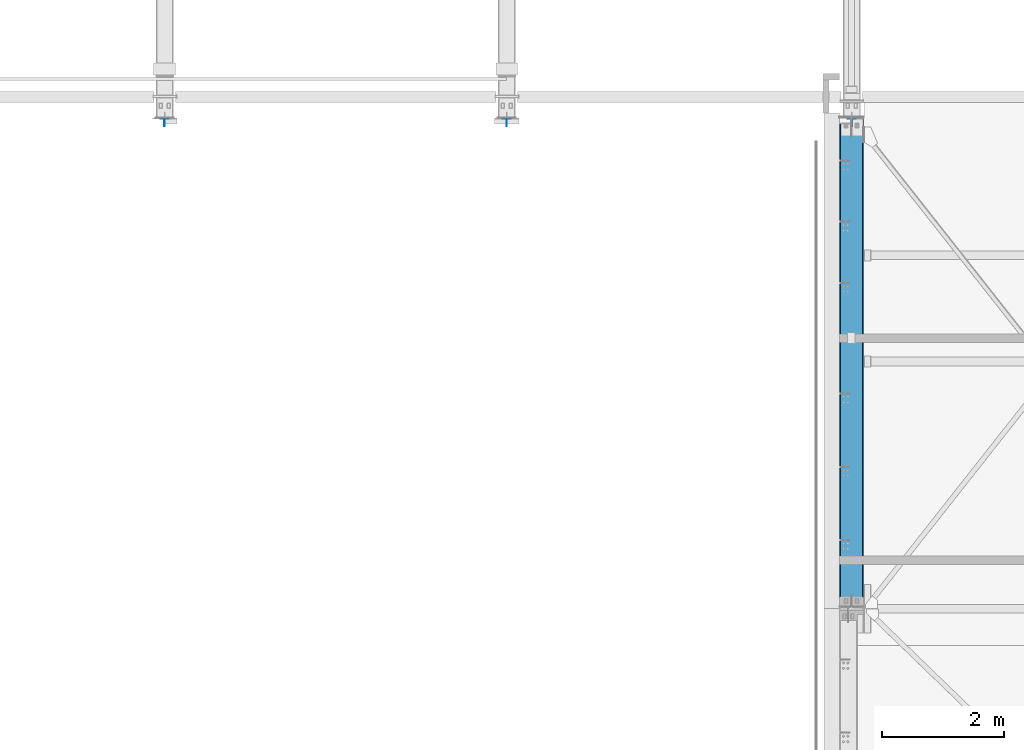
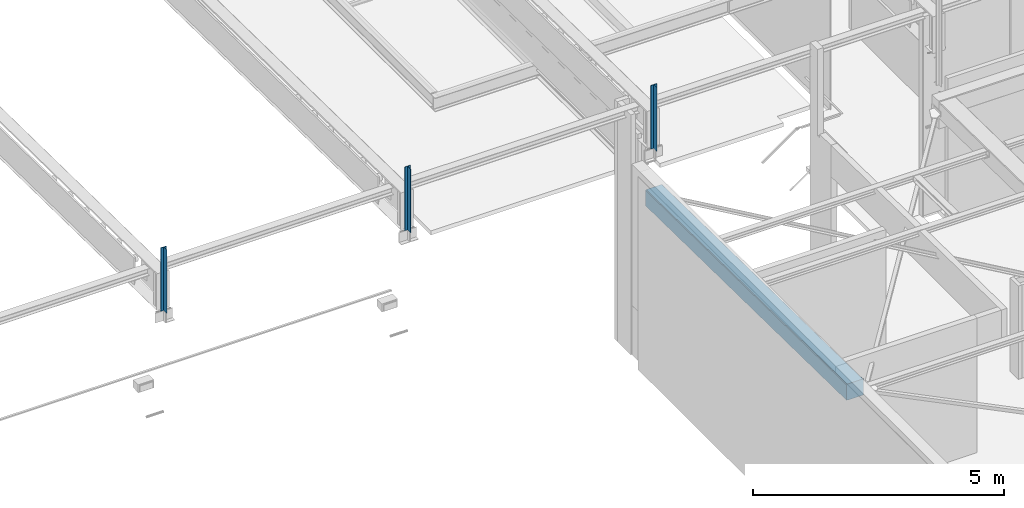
# One storey, part 125 of 186: 4 beams.
"""IFC4X3_ADD2 building model written with IfcOpenShell, lengths in millimetres."""

from ifc_helpers import new_model, si_unit, direction, frame, origin_with_axes, place, context, subcontext, project, spatial, polygons, element, save


model = new_model("IFC4X3_ADD2")

# Units and contexts
model_context = context("Model", 3, precision=1e-05, world=origin_with_axes(), true_north=direction((0.0, 1.0)))
body_context = subcontext(model_context, "Body", "Model", "MODEL_VIEW")
ifc_project = project(units=[si_unit("LENGTHUNIT", "METRE", prefix="MILLI"), si_unit("AREAUNIT", "SQUARE_METRE"), si_unit("VOLUMEUNIT", "CUBIC_METRE"), si_unit("PLANEANGLEUNIT", "RADIAN"), si_unit("TIMEUNIT", "SECOND"), si_unit("MASSUNIT", "GRAM")], contexts=[model_context])

# Site, building, storey
site_placement = place(None, origin_with_axes())
site = spatial("IfcSite", under=ifc_project, at=site_placement, Name="Site", CompositionType="ELEMENT")
building_placement = place(site_placement, origin_with_axes())
building = spatial("IfcBuilding", under=site, at=building_placement, Name="IFC Building Story")
storey_placement = place(building_placement, frame((0.0, 0.0, 4370.0), z_axis=(0.0, 0.0, 1.0), x_axis=(1.0, 0.0, 0.0)))
storey = spatial("IfcBuildingStorey", under=building, at=storey_placement, Name="ETAGE 10 (1)", Elevation=4370.0)

# Beams
beam_1_placement = place(storey_placement, frame((0.0, 0.0, -4370.0), z_axis=(0.0, 0.0, 1.0), x_axis=(1.0, 0.0, 0.0)))
element("IfcBeam", 1, at=beam_1_placement, inside=storey, Name="PS6", ObjectType="HALF_IPE270_135", context=body_context, shape_type="Tessellation", body=[
    polygons([(22158.9914617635, -134.999992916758, 9995.00041961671), (22158.9914617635, -134.999992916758, 8450.00041961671), (22158.9914617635, -10.199992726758, 8450.00041961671), (22158.9914617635, -10.199992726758, 9995.00041961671), (22223.19146181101, -10.199992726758, 8450.00041961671), (22223.19146181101, -10.199992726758, 9995.00041961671), (22223.19146181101, 7.083241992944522e-06, 8450.00041961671), (22223.19146181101, 7.083241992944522e-06, 9995.00041961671), (22088.191461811, 7.083241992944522e-06, 8450.00041961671), (22088.191461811, 7.083241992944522e-06, 9995.00041961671), (22088.191461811, -10.199992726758, 8450.00041961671), (22088.191461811, -10.199992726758, 9995.00041961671), (22152.3914618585, -10.199992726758, 8450.00041961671), (22152.3914618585, -10.199992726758, 9995.00041961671), (22152.3914618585, -134.999992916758, 8450.00041961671), (22152.3914618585, -134.999992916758, 9995.00041961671)], [[[1, 2, 3, 4]], [[4, 3, 5, 6]], [[6, 5, 7, 8]], [[8, 7, 9, 10]], [[10, 9, 11, 12]], [[12, 11, 13, 14]], [[14, 13, 15, 16]], [[16, 15, 2, 1]], [[4, 6, 8]], [[4, 8, 14]], [[14, 16, 1]], [[14, 1, 4]], [[8, 10, 14]], [[10, 12, 14]], [[13, 11, 9]], [[13, 9, 3]], [[3, 2, 15]], [[3, 15, 13]], [[9, 7, 3]], [[7, 5, 3]]]),
])
beam_2_placement = place(storey_placement, frame((0.0, 0.0, -4370.0), z_axis=(0.0, 0.0, 1.0), x_axis=(1.0, 0.0, 0.0)))
element("IfcBeam", 2, at=beam_2_placement, inside=storey, Name="PS6", ObjectType="HALF_IPE270_135", context=body_context, shape_type="Tessellation", body=[
    polygons([(27758.9908895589, -134.999992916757, 9995.00041961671), (27758.9908895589, -134.999992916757, 8450.00041961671), (27758.9908895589, -10.19999272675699, 8450.00041961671), (27758.9908895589, -10.19999272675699, 9995.00041961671), (27823.19088960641, -10.19999272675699, 8450.00041961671), (27823.19088960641, -10.19999272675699, 9995.00041961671), (27823.19088960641, 7.083243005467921e-06, 8450.00041961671), (27823.19088960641, 7.083243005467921e-06, 9995.00041961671), (27688.1908896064, 7.083243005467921e-06, 8450.00041961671), (27688.1908896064, 7.083243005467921e-06, 9995.00041961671), (27688.1908896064, -10.19999272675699, 8450.00041961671), (27688.1908896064, -10.19999272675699, 9995.00041961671), (27752.3908896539, -10.19999272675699, 8450.00041961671), (27752.3908896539, -10.19999272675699, 9995.00041961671), (27752.3908896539, -134.999992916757, 8450.00041961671), (27752.3908896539, -134.999992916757, 9995.00041961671)], [[[1, 2, 3, 4]], [[4, 3, 5, 6]], [[6, 5, 7, 8]], [[8, 7, 9, 10]], [[10, 9, 11, 12]], [[12, 11, 13, 14]], [[14, 13, 15, 16]], [[16, 15, 2, 1]], [[4, 6, 8]], [[4, 8, 14]], [[14, 16, 1]], [[14, 1, 4]], [[8, 10, 14]], [[10, 12, 14]], [[13, 11, 9]], [[13, 9, 3]], [[3, 2, 15]], [[3, 15, 13]], [[9, 7, 3]], [[7, 5, 3]]]),
])
beam_3_placement = place(storey_placement, frame((0.0, 0.0, -4370.0), z_axis=(0.0, 0.0, 1.0), x_axis=(1.0, 0.0, 0.0)))
element("IfcBeam", 3, at=beam_3_placement, inside=storey, Name="PS6", ObjectType="HALF_IPE270_135", context=body_context, shape_type="Tessellation", body=[
    polygons([(33409.48850808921, -134.999992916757, 9995.00041961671), (33409.48850808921, -134.999992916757, 8450.00041961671), (33409.48850808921, -10.19999272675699, 8450.00041961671), (33409.48850808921, -10.19999272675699, 9995.00041961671), (33473.68850813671, -10.19999272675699, 8450.00041961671), (33473.68850813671, -10.19999272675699, 9995.00041961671), (33473.68850813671, 7.083243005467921e-06, 8450.00041961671), (33473.68850813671, 7.083243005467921e-06, 9995.00041961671), (33338.6885081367, 7.083243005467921e-06, 8450.00041961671), (33338.6885081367, 7.083243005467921e-06, 9995.00041961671), (33338.6885081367, -10.19999272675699, 8450.00041961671), (33338.6885081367, -10.19999272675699, 9995.00041961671), (33402.8885081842, -10.19999272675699, 8450.00041961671), (33402.8885081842, -10.19999272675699, 9995.00041961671), (33402.88850818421, -134.999992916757, 8450.00041961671), (33402.88850818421, -134.999992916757, 9995.00041961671)], [[[1, 2, 3, 4]], [[4, 3, 5, 6]], [[6, 5, 7, 8]], [[8, 7, 9, 10]], [[10, 9, 11, 12]], [[12, 11, 13, 14]], [[14, 13, 15, 16]], [[16, 15, 2, 1]], [[4, 6, 8]], [[4, 8, 14]], [[14, 16, 1]], [[14, 1, 4]], [[8, 10, 14]], [[10, 12, 14]], [[13, 11, 9]], [[13, 9, 3]], [[3, 2, 15]], [[3, 15, 13]], [[9, 7, 3]], [[7, 5, 3]]]),
])
beam_4_placement = place(storey_placement, frame((0.0, 0.0, -4370.0), z_axis=(0.0, 0.0, 1.0), x_axis=(1.0, 0.0, 0.0)))
element("IfcBeam", 4, at=beam_4_placement, inside=storey, Name="BEAM", ObjectType="CRH_R_400*390*15", context=body_context, shape_type="Tessellation", body=[
    polygons([(33586.18628281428, -319.9997001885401, 7129.825362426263), (33581.18769887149, -319.9997001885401, 7124.826175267), (33221.1876988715, -319.9997001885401, 7124.826175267), (33216.18911492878, -319.9997001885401, 7129.825362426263), (33211.52885582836, -19.99970018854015, 7129.825362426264), (33590.84654191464, -19.99970018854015, 7129.825362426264), (33581.18769887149, -19.99970018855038, 7520.213624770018), (33581.18769887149, -8015.00925635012, 7644.42466590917), (33596.1876988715, -8015.00925635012, 7629.42285574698), (33596.1876988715, -19.99970018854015, 7505.211814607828), (33221.1876988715, -19.99970018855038, 7520.21362477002), (33221.1876988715, -8015.00925635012, 7644.424665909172), (33206.1876988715, -19.99970018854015, 7505.21181460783), (33206.1876988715, -8015.00925635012, 7629.422855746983), (33206.1876988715, -19.99970018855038, 7135.167163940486), (33206.1876988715, -8015.00925635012, 7259.378205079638), (33581.18769887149, -7815.00925635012, 7241.269180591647), (33592.29358161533, -7815.00925635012, 7252.376403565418), (33210.08181612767, -7815.00925635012, 7252.376403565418), (33221.1876988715, -7815.00925635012, 7241.269180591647), (33589.18674221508, -8015.00925635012, 7252.376403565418), (33213.18865552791, -8015.00925635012, 7252.376403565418), (33596.1876988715, -8015.00925635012, 7259.378205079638), (33596.1876988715, -19.99970018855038, 7135.167163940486)], [[[1, 2, 3, 4]], [[5, 6, 1, 4]], [[7, 8, 9, 10]], [[11, 12, 8, 7]], [[13, 14, 12, 11]], [[15, 16, 14, 13]], [[17, 18, 19, 20]], [[18, 21, 22, 19]], [[21, 23, 9]], [[21, 9, 8]], [[21, 8, 12]], [[21, 12, 14]], [[21, 14, 16]], [[21, 16, 22]], [[10, 9, 23, 24]], [[5, 15, 13]], [[5, 13, 11]], [[5, 11, 7]], [[5, 7, 10]], [[5, 10, 24]], [[5, 24, 6]], [[19, 22, 16]], [[4, 3, 20]], [[4, 20, 19]], [[19, 16, 15]], [[4, 19, 15]], [[15, 5, 4]], [[2, 17, 20, 3]], [[1, 6, 24]], [[1, 24, 18]], [[18, 17, 1]], [[17, 2, 1]], [[24, 23, 18]], [[23, 21, 18]]]),
])

save(model, "model.ifc")
